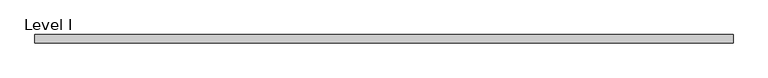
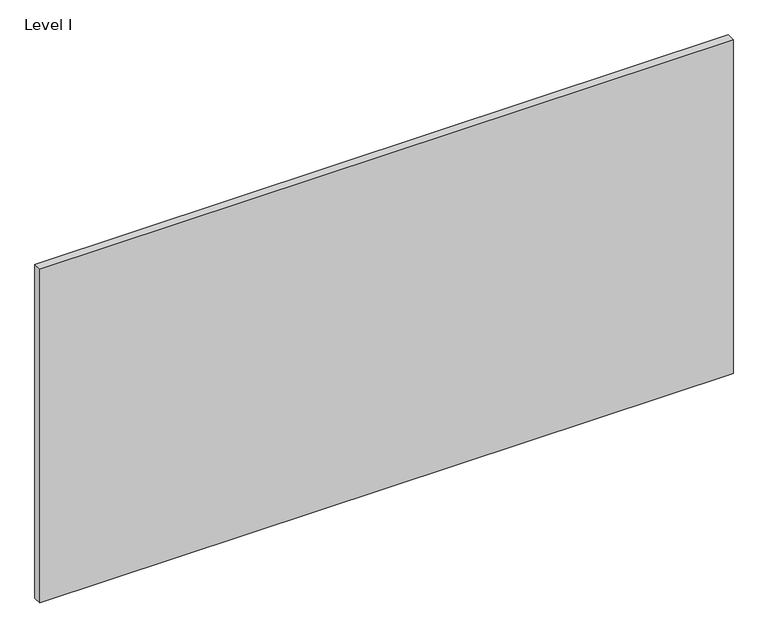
"""IFC4 building model written with IfcOpenShell, lengths in millimetres: proxy geometry, Panel-Fascia-Teknion-Altos-Landscape : Level I."""

from ifc_helpers import new_model, si_unit, frame, origin, place, context, project, spatial, polyline, outline, extrude, source, transform, mapped, element, save


def level_i_0ecc00cd(model_context):
    return source(origin(), model_context, "Body", "SweptSolid", [
        extrude(outline(polyline([(795.6407125, -9.525), (-795.6407125, -9.525), (-795.6407125, 9.525), (795.6407125, 9.525), (795.6407125, -9.525)])), frame((0.0, 0.0, 3.175), z_axis=(0.0, 0.0, 1.0), x_axis=(1.0, 0.0, 0.0)), (0.0, 0.0, 1.0), 810.768),
    ])


if __name__ == "__main__":
    model = new_model("IFC4")
    model_context = context("Model", 3, world=origin())
    ifc_project = project(units=[si_unit("LENGTHUNIT", "METRE", prefix="MILLI")], contexts=[model_context])
    site = spatial("IfcSite", under=ifc_project)
    building = spatial("IfcBuilding", under=site)
    placement = place(None, origin())
    level_i_shape = level_i_0ecc00cd(model_context)
    element("IfcBuildingElementProxy", 1, Name="Panel-Fascia-Teknion-Altos-Landscape : Level I", ObjectType="Panel-Fascia-Teknion-Altos-Landscape : Level I", at=placement, inside=building, context=model_context, shape_type="MappedRepresentation", body=[
        mapped(level_i_shape, transform((0.0, 0.0, 0.0), x_axis=(1.0, 0.0, 0.0), y_axis=(0.0, 1.0, 0.0), z_axis=(0.0, 0.0, 1.0))),
    ])
    save(model, "model.ifc")
